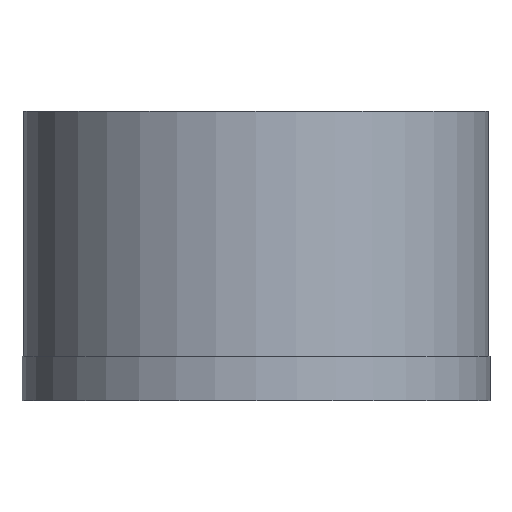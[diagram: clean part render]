
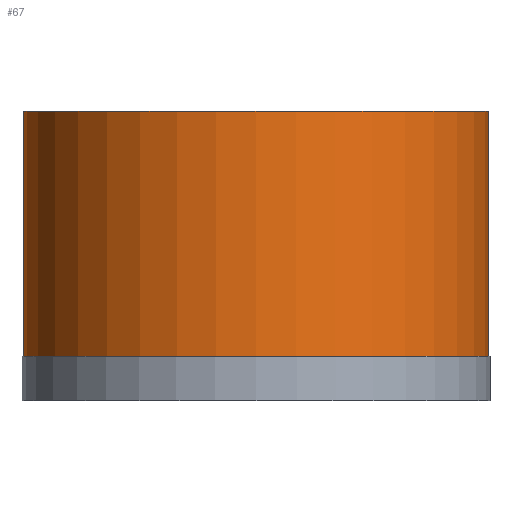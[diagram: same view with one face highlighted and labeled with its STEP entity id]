
A CAD part, front view. The second image highlights one B-rep face of the part: STEP entity #67.
In plain terms, the highlighted cylindrical face has radius 10.427 mm (diameter 20.854 mm), a full revolution.
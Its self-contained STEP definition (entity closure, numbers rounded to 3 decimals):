
#1 = CIRCLE ( 'NONE', #182, 10.427 ) ;
#3 = CARTESIAN_POINT ( 'NONE',  ( -10.427, 0., 2. ) ) ;
#5 = CARTESIAN_POINT ( 'NONE',  ( 0., 0., 0. ) ) ;
#17 = EDGE_LOOP ( 'NONE', ( #230 ) ) ;
#28 = ORIENTED_EDGE ( 'NONE', *, *, #117, .T. ) ;
#36 = CIRCLE ( 'NONE', #55, 10.427 ) ;
#38 = DIRECTION ( 'NONE',  ( -1., 0., 0. ) ) ;
#55 = AXIS2_PLACEMENT_3D ( 'NONE', #86, #204, #38 ) ;
#56 = DIRECTION ( 'NONE',  ( 0., 0., -1. ) ) ;
#60 = VERTEX_POINT ( 'NONE', #159 ) ;
#67 = ADVANCED_FACE ( 'NONE', ( #185, #101 ), #233, .T. ) ;
#86 = CARTESIAN_POINT ( 'NONE',  ( 0., 0., 2. ) ) ;
#101 = FACE_OUTER_BOUND ( 'NONE', #17, .T. ) ;
#117 = EDGE_CURVE ( 'NONE', #60, #60, #1, .T. ) ;
#123 = DIRECTION ( 'NONE',  ( -1., 0., 0. ) ) ;
#141 = VERTEX_POINT ( 'NONE', #3 ) ;
#146 = DIRECTION ( 'NONE',  ( 0., 0., -1. ) ) ;
#159 = CARTESIAN_POINT ( 'NONE',  ( -10.427, 0., 13. ) ) ;
#182 = AXIS2_PLACEMENT_3D ( 'NONE', #240, #146, #207 ) ;
#183 = EDGE_CURVE ( 'NONE', #141, #141, #36, .T. ) ;
#185 = FACE_OUTER_BOUND ( 'NONE', #247, .T. ) ;
#204 = DIRECTION ( 'NONE',  ( 0., 0., -1. ) ) ;
#207 = DIRECTION ( 'NONE',  ( -1., 0., 0. ) ) ;
#212 = AXIS2_PLACEMENT_3D ( 'NONE', #5, #56, #123 ) ;
#230 = ORIENTED_EDGE ( 'NONE', *, *, #183, .F. ) ;
#233 = CYLINDRICAL_SURFACE ( 'NONE', #212, 10.427 ) ;
#240 = CARTESIAN_POINT ( 'NONE',  ( 0., 0., 13. ) ) ;
#247 = EDGE_LOOP ( 'NONE', ( #28 ) ) ;
